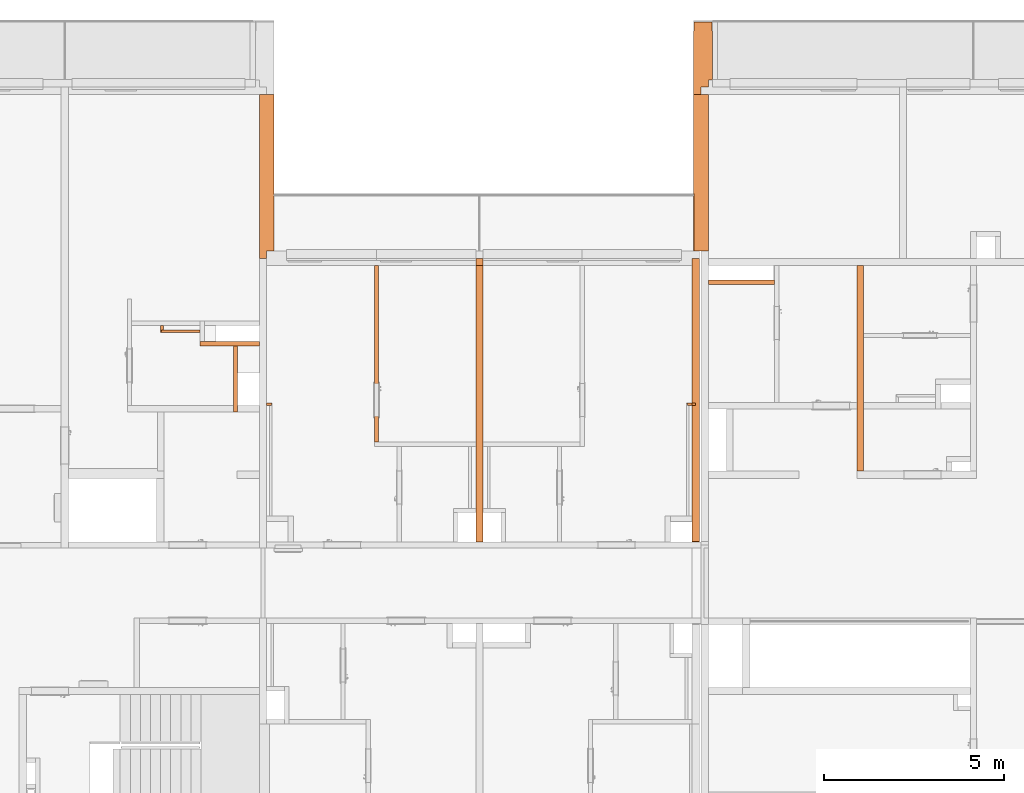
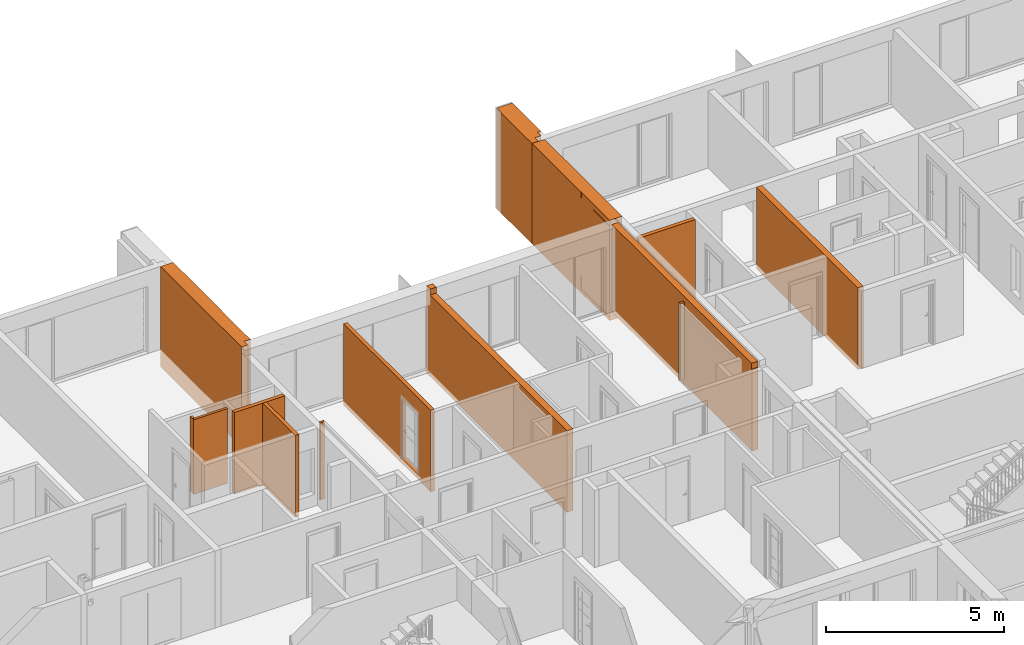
# One storey, part 63 of 67: 14 proxies, 2 openings.
"""IFC2X3 building model written with IfcOpenShell, lengths in millimetres."""

from ifc_helpers import new_model, entity, si_unit, converted_unit, derived_unit, money_unit, direction, frame, origin_with_axes, origin_2d_with_axis, place, context, subcontext, project, spatial, rectangle, extrude, faceted_brep, material, material_list, type_object, element, save


model = new_model("IFC2X3")

# Units and contexts
model_context = context("Model", 3, precision=0.01, world=origin_with_axes(), true_north=direction((0.34421633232, 0.938890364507)))
body_context = subcontext(model_context, "Body", "Model", "MODEL_VIEW")
ifc_project = project(units=[si_unit("LENGTHUNIT", "METRE", prefix="MILLI"), si_unit("AREAUNIT", "SQUARE_METRE"), si_unit("VOLUMEUNIT", "CUBIC_METRE"), converted_unit("PLANEANGLEUNIT", "DEGREE", entity("IfcPlaneAngleMeasure", 0.0174532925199), si_unit("PLANEANGLEUNIT", "RADIAN"), dimensions=[0, 0, 0, 0, 0, 0, 0]), si_unit("SOLIDANGLEUNIT", "STERADIAN"), money_unit("USD"), converted_unit("TIMEUNIT", "Year", entity("IfcTimeMeasure", 31556926.0), si_unit("TIMEUNIT", "SECOND"), dimensions=[0, 0, 1, 0, 0, 0, 0]), si_unit("MASSUNIT", "GRAM", prefix="KILO"), si_unit("THERMODYNAMICTEMPERATUREUNIT", "DEGREE_CELSIUS"), si_unit("LUMINOUSINTENSITYUNIT", "LUMEN"), si_unit("ENERGYUNIT", "JOULE", prefix="MEGA"), derived_unit("THERMALCONDUCTANCEUNIT", [(si_unit("POWERUNIT", "WATT"), 1), (si_unit("LENGTHUNIT", "METRE"), -1), (si_unit("THERMODYNAMICTEMPERATUREUNIT", "KELVIN"), -1)]), derived_unit("SPECIFICHEATCAPACITYUNIT", [(si_unit("ENERGYUNIT", "JOULE"), 1), (si_unit("MASSUNIT", "GRAM", prefix="KILO"), -1), (si_unit("THERMODYNAMICTEMPERATUREUNIT", "KELVIN"), -1)]), derived_unit("MASSDENSITYUNIT", [(si_unit("MASSUNIT", "GRAM", prefix="KILO"), 1), (si_unit("VOLUMEUNIT", "CUBIC_METRE"), -1)])], contexts=[model_context])

# Site, building, storey
site_placement = place(None, origin_with_axes())
site = spatial("IfcSite", under=ifc_project, at=site_placement, Name="USTRONIE MORSKIE", CompositionType="ELEMENT")
building_placement = place(site_placement, origin_with_axes())
building = spatial("IfcBuilding", under=site, at=building_placement, Name="Budynek", CompositionType="ELEMENT")
storey_placement = place(building_placement, frame((0.0, 0.0, 4000.0), z_axis=(0.0, 0.0, 1.0), x_axis=(1.0, 0.0, 0.0)))
storey = spatial("IfcBuildingStorey", under=building, at=storey_placement, Name="PIĘTRO 1", CompositionType="ELEMENT", Elevation=4000.0)

# Proxy
ifc_material_1 = material(Name="Bloczki silikatowe")
building_element_proxy_type_1 = type_object("IfcBuildingElementProxyType", Name="Bloczki silikatowe 120", PredefinedType="NOTDEFINED")
proxy_1_placement = place(storey_placement, frame((410567.940089, 744141.199036, -160.0), z_axis=(0.0, 0.0, 1.0), x_axis=(-1.0, 0.0, 0.0)))
element("IfcBuildingElementProxy", 1, at=proxy_1_placement, inside=storey, type_object=building_element_proxy_type_1, material=ifc_material_1, Name="SW-04", context=body_context, shape_type="Brep", body=[
    faceted_brep([(1900.02781556, -59.9999999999, 2800.0), (1900.02911245, 59.9999999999, 2800.0), (60.0, 59.9999999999, 2800.0), (60.0, -59.9999999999, 2800.0), (1900.02781556, -59.9999999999, 0.0), (1900.02911245, 59.9999999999, 0.0), (60.0, 59.9999999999, 0.0), (60.0, -59.9999999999, 0.0)], [[[0, 1, 2, 3]], [[1, 0, 4, 5]], [[1, 5, 6, 2]], [[7, 3, 2, 6]], [[4, 0, 3, 7]], [[5, 4, 7, 6]]]),
])

# Proxy, opening
proxy_2_placement = place(storey_placement, frame((399467.913786, 739651.199937, -160.0), z_axis=(0.0, 0.0, 1.0), x_axis=(0.0, 1.0, 0.0)))
proxy_2 = element("IfcBuildingElementProxy", 2, at=proxy_2_placement, inside=storey, type_object=building_element_proxy_type_1, material=ifc_material_1, Name="SW-04", context=body_context, shape_type="Brep", body=[
    faceted_brep([(4949.99916105, 60.0, 0.0), (4949.99916406, -60.0, 0.0), (59.9999999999, -60.0, 0.0), (59.9999999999, 60.0, 0.0), (4949.99916105, 60.0, 2800.0), (4949.99916406, -60.0, 2800.0), (59.9999999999, -60.0, 2800.0), (59.9999999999, 60.0, 2800.0)], [[[0, 1, 2, 3]], [[1, 0, 4, 5]], [[1, 5, 6, 2]], [[7, 3, 2, 6]], [[4, 0, 3, 7]], [[5, 4, 7, 6]]]),
])
opening_1_placement = place(proxy_2_placement, frame((1220.0, 0.0, 160.0), z_axis=(0.0, 0.0, 1.0), x_axis=(1.0, 0.0, 0.0)))
element("IfcOpeningElement", 3, at=opening_1_placement, cuts=proxy_2, Name="Dw.3", context=body_context, shape_type="SweptSolid", body=[
    extrude(rectangle(XDim=920.0, YDim=2070.0, at=origin_2d_with_axis()), frame((0.0, -120.0, 1035.0), z_axis=(0.0, 1.0, 0.0), x_axis=(-1.0, 0.0, 0.0)), (0.0, 0.0, 1.0), 360.0),
    extrude(rectangle(XDim=994.0, YDim=2177.0, at=origin_2d_with_axis()), frame((0.0, -60.0, 1088.5), z_axis=(0.0, 1.0, 0.0), x_axis=(-1.0, 0.0, 0.0)), (0.0, 0.0, -1.0), 120.0),
    extrude(rectangle(XDim=994.0, YDim=2177.0, at=origin_2d_with_axis()), frame((0.0, 60.0, 1088.5), z_axis=(0.0, -1.0, 0.0), x_axis=(-1.0, 0.0, 0.0)), (0.0, 0.0, -1.0), 120.0),
])

# Proxies
proxy_3_placement = place(storey_placement, frame((395557.917512, 742431.199937, -160.0), z_axis=(0.0, 0.0, 1.0), x_axis=(0.0, -1.0, 0.0)))
element("IfcBuildingElementProxy", 4, at=proxy_3_placement, inside=storey, type_object=building_element_proxy_type_1, material=ifc_material_1, Name="SW-04", context=body_context, shape_type="Brep", body=[
    faceted_brep([(1890.00090117, -60.0, 2800.0), (1890.00090117, 60.0, 2800.0), (59.9999999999, 60.0, 2800.0), (59.9999999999, -60.0, 2800.0), (1890.00090117, -60.0, 0.0), (1890.00090117, 60.0, 0.0), (59.9999999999, 60.0, 0.0), (59.9999999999, -60.0, 0.0)], [[[0, 1, 2, 3]], [[1, 0, 4, 5]], [[1, 5, 6, 2]], [[7, 3, 2, 6]], [[4, 0, 3, 7]], [[5, 4, 7, 6]]]),
])
proxy_4_placement = place(storey_placement, frame((396317.920919, 742431.199937, -160.0), z_axis=(0.0, 0.0, 1.0), x_axis=(-1.0, 0.0, 0.0)))
element("IfcBuildingElementProxy", 5, at=proxy_4_placement, inside=storey, type_object=building_element_proxy_type_1, material=ifc_material_1, Name="SW-04", context=body_context, shape_type="Brep", body=[
    faceted_brep([(1740.0, -59.9999999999, 2800.0), (1740.0, 59.9999999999, 2800.0), (100.00285023, 59.9999999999, 2800.0), (100.002703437, -59.9999999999, 2800.0), (1740.0, -59.9999999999, 0.0), (1740.0, 59.9999999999, 0.0), (100.00285023, 59.9999999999, 0.0), (100.002703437, -59.9999999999, 0.0)], [[[0, 1, 2, 3]], [[1, 0, 4, 5]], [[1, 5, 6, 2]], [[7, 3, 2, 6]], [[4, 0, 3, 7]], [[5, 4, 7, 6]]]),
])
ifc_material_2 = material(Name="Beton konstrukcyjny B25")
ifc_material_3 = material(Name="Wełna ELEW")
ifc_material_4 = material(Name="Tynk zewnętrzny")
ifc_material_list_1 = material_list([ifc_material_2, ifc_material_3, ifc_material_4])
building_element_proxy_type_2 = type_object("IfcBuildingElementProxyType", Name="20+20 410", PredefinedType="NOTDEFINED")
proxy_5_placement = place(storey_placement, frame((396317.920919, 744701.199021, -600.0), z_axis=(0.0, 0.0, 1.0), x_axis=(0.0, 1.0, 0.0)))
element("IfcBuildingElementProxy", 6, at=proxy_5_placement, inside=storey, type_object=building_element_proxy_type_2, material=ifc_material_list_1, Name="SZ-01", context=body_context, shape_type="Brep", body=[
    faceted_brep([(4650.00001536, 100.0, 3440.0), (100.000301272, 100.0, 3440.0), (100.000301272, -100.0, 3440.0), (4650.00001536, -100.0, 3440.0), (100.000301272, 100.0, 440.0), (100.000301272, 100.0, 3240.0), (4650.00001536, 100.0, -2.99036351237e-08), (100.000301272, 100.0, 0.0), (100.000301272, -100.000122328, 3240.0), (100.000301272, -100.000122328, 440.0), (100.000301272, -100.0, 0.0), (4650.00001536, -100.0, -1.81765713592e-08)], [[[0, 1, 2, 3]], [[4, 5, 1, 0, 6, 7]], [[5, 8, 2, 1]], [[3, 2, 8, 9, 10, 11]], [[6, 0, 3, 11]], [[9, 8, 5, 4]], [[11, 10, 7, 6]], [[10, 9, 4, 7]]]),
    faceted_brep([(4650.00001536, -100.0, 3440.0), (300.000301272, -100.0, 3440.0), (300.000301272, -300.0, 3440.0), (4650.00001536, -300.0, 3440.0), (4650.00001536, -100.0, -1.039014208e-06), (300.000301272, -100.0, 0.0), (300.000301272, -300.0, 0.0), (4650.00001536, -300.0, -1.039014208e-06)], [[[0, 1, 2, 3]], [[1, 0, 4, 5]], [[6, 2, 1, 5]], [[3, 2, 6, 7]], [[4, 0, 3, 7]], [[7, 6, 5, 4]]]),
    faceted_brep([(1899.99511443, -300.000278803, 3440.0), (1899.99511443, -310.0, 3440.0), (4650.00001536, -310.0, 3440.0), (4650.00001536, -300.0, 3440.0), (1899.99511443, -310.0, 3240.0), (1899.99511443, -300.000278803, 3240.0), (310.000301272, -310.0, 3240.0), (310.000301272, -310.0, 570.0), (1899.99511443, -310.0, 570.0), (1899.99511443, -310.0, 130.0), (310.000301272, -310.0, 130.0), (310.000301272, -310.0, 0.0), (4650.00001536, -310.0, -1.039014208e-06), (4650.00001536, -300.0, -1.039014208e-06), (310.000301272, -300.0, 0.0), (310.000301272, -300.0, 130.0), (1899.99511443, -300.0, 130.0), (1899.99511443, -300.0, 570.0), (310.000301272, -300.0, 570.0), (310.000301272, -300.000278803, 3240.0)], [[[0, 1, 2, 3]], [[4, 1, 0, 5]], [[4, 6, 7, 8, 9, 10, 11, 12, 2, 1]], [[13, 3, 2, 12]], [[5, 0, 3, 13, 14, 15, 16, 17, 18, 19]], [[6, 4, 5, 19]], [[6, 19, 18, 7]], [[8, 7, 18, 17]], [[8, 17, 16, 9]], [[10, 9, 16, 15]], [[10, 15, 14, 11]], [[12, 11, 14, 13]]]),
])
ifc_material_list_2 = material_list([ifc_material_4, ifc_material_3, ifc_material_2])
proxy_6_placement = place(storey_placement, frame((408567.920919, 745001.199036, -600.0), z_axis=(0.0, 0.0, 1.0), x_axis=(0.0, 1.0, 0.0)))
element("IfcBuildingElementProxy", 7, at=proxy_6_placement, inside=storey, type_object=building_element_proxy_type_2, material=ifc_material_list_2, Name="SZ-01", context=body_context, shape_type="Brep", body=[
    faceted_brep([(1599.99509907, 310.0, 3440.0), (1599.99509907, 300.0, 3440.0), (4350.0002527, 300.0, 3440.0), (4350.00026112, 310.0, 3440.0), (1599.99509907, 300.0, 3240.0), (1599.99509907, 310.0, 3240.0), (0.000147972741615, 300.0, 3240.0), (0.0, 300.0, 570.0), (1599.99509907, 300.0, 570.0), (1599.99509907, 300.0, 130.0), (0.0, 300.0, 130.0), (0.0, 300.0, 0.0), (4350.0002527, 300.0, -1.039014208e-06), (4350.00026112, 310.0, -1.039014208e-06), (0.0, 310.0, 0.0), (0.0, 310.0, 130.0), (1599.99509907, 310.0, 130.0), (1599.99509907, 310.0, 570.0), (0.0, 310.0, 570.0), (0.000159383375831, 310.0, 3240.0)], [[[0, 1, 2, 3]], [[4, 1, 0, 5]], [[4, 6, 7, 8, 9, 10, 11, 12, 2, 1]], [[13, 3, 2, 12]], [[5, 0, 3, 13, 14, 15, 16, 17, 18, 19]], [[6, 4, 5, 19]], [[6, 19, 18, 7]], [[8, 7, 18, 17]], [[8, 17, 16, 9]], [[10, 9, 16, 15]], [[10, 15, 14, 11]], [[14, 13, 12, 11]]]),
    faceted_brep([(0.0, 100.0, 0.0), (4350.00008423, 100.0, -1.039014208e-06), (4350.00008423, 100.0, 3440.0), (0.0, 100.0, 3440.0), (0.0, 300.0, 0.0), (4350.0002527, 300.0, -1.039014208e-06), (4350.0002527, 300.0, 3440.0), (0.0, 300.0, 3440.0)], [[[0, 1, 2, 3]], [[4, 5, 1, 0]], [[5, 6, 2, 1]], [[3, 2, 6, 7]], [[7, 4, 0, 3]], [[7, 6, 5, 4]]]),
    faceted_brep([(4349.99991577, -100.0, -2.99036351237e-08), (4349.99991577, -100.0, 3440.0), (0.0, -100.0, 3440.0), (0.0, -100.0, 0.0), (4350.00008423, 100.0, 3440.0), (4350.00008423, 100.0, -1.81765713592e-08), (0.0, 100.0, 3440.0), (0.0, 100.0, 0.0)], [[[0, 1, 2, 3]], [[4, 1, 0, 5]], [[1, 4, 6, 2]], [[7, 3, 2, 6]], [[5, 0, 3, 7]], [[4, 5, 7, 6]]]),
])
building_element_proxy_type_3 = type_object("IfcBuildingElementProxyType", Name="Bloczki silikatowe 180", PredefinedType="NOTDEFINED")
proxy_7_placement = place(storey_placement, frame((412877.920963, 744701.199036, -160.0), z_axis=(0.0, 0.0, 1.0), x_axis=(0.0, -1.0, 0.0)))
element("IfcBuildingElementProxy", 8, at=proxy_7_placement, inside=storey, type_object=building_element_proxy_type_3, material=ifc_material_1, Name="SW-02", context=body_context, shape_type="Brep", body=[
    faceted_brep([(100.0, 90.0, 0.0), (5800.0, 90.0, 0.0), (5800.0, -90.0, 0.0), (100.0, -90.0, 0.0), (100.0, 90.0, 2800.0), (5800.0, 90.0, 2800.0), (5800.0, -90.0, 2800.0), (100.0, -90.0, 2800.0)], [[[0, 1, 2, 3]], [[4, 5, 1, 0]], [[6, 2, 1, 5]], [[3, 2, 6, 7]], [[7, 4, 0, 3]], [[7, 6, 5, 4]]]),
])
ifc_material_5 = material(Name="Płyta GK")
ifc_material_6 = material(Name="-Pustka powietrzna")
ifc_material_list_3 = material_list([ifc_material_5, ifc_material_5, ifc_material_6])
building_element_proxy_type_4 = type_object("IfcBuildingElementProxyType", Name="330-SD GK 2-warstwy 75", PredefinedType="NOTDEFINED")
proxy_8_placement = place(storey_placement, frame((393502.920919, 742771.199021, -160.0), z_axis=(0.0, 0.0, 1.0), x_axis=(0.0, 1.0, 0.0)))
element("IfcBuildingElementProxy", 9, at=proxy_8_placement, inside=storey, type_object=building_element_proxy_type_4, material=ifc_material_list_3, Name="Ściana-009", context=body_context, shape_type="Brep", body=[
    faceted_brep([(-12.5, 12.5, 145.0), (170.0, 12.5, 145.0), (170.0, 12.5, 2710.0), (-12.5, 12.5, 2710.0), (170.0, 25.0, 145.0), (-12.5, 25.0, 145.0), (170.0, 25.0, 2710.0), (-12.5, 25.0, 2710.0)], [[[0, 1, 2, 3]], [[4, 1, 0, 5]], [[1, 4, 6, 2]], [[2, 6, 7, 3]], [[5, 0, 3, 7]], [[4, 5, 7, 6]]]),
    faceted_brep([(0.0, 0.0, 145.0), (170.0, 0.0, 145.0), (170.0, 0.0, 2710.0), (0.0, 0.0, 2710.0), (170.0, 12.5, 145.0), (0.0, 12.5, 145.0), (170.0, 12.5, 2710.0), (0.0, 12.5, 2710.0)], [[[0, 1, 2, 3]], [[4, 1, 0, 5]], [[1, 4, 6, 2]], [[2, 6, 7, 3]], [[5, 0, 3, 7]], [[4, 5, 7, 6]]]),
    faceted_brep([(50.0, -50.0, 160.0), (170.0, -50.0, 160.0), (170.0, -50.0, 2710.0), (50.0, -50.0, 2710.0), (170.0, 0.0, 160.0), (50.0, 0.0, 160.0), (170.0, 0.0, 2710.0), (50.0, 0.0, 2710.0)], [[[0, 1, 2, 3]], [[4, 1, 0, 5]], [[1, 4, 6, 2]], [[2, 6, 7, 3]], [[5, 0, 3, 7]], [[4, 5, 7, 6]]]),
])
proxy_9_placement = place(storey_placement, frame((396317.920919, 740771.202288, -180.0), z_axis=(0.0, 0.0, 1.0), x_axis=(1.0, 0.0, 0.0)))
element("IfcBuildingElementProxy", 10, at=proxy_9_placement, inside=storey, type_object=building_element_proxy_type_4, material=ifc_material_list_3, Name="Ściana-009", context=body_context, shape_type="Brep", body=[
    faceted_brep([(254.977879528, 12.5, 165.0), (254.977879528, 25.0, 165.0), (254.977879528, 25.0, 2820.0), (254.977879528, 12.5, 2820.0), (99.9952231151, 25.0, 165.0), (99.9952078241, 12.5, 165.0), (99.9952231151, 25.0, 2820.0), (99.9952078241, 12.5, 2820.0)], [[[0, 1, 2, 3]], [[4, 1, 0, 5]], [[1, 4, 6, 2]], [[2, 6, 7, 3]], [[5, 0, 3, 7]], [[4, 5, 7, 6]]]),
    faceted_brep([(242.477879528, 0.0, 165.0), (242.477879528, 12.5, 165.0), (242.477879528, 12.5, 2820.0), (242.477879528, 0.0, 2820.0), (99.9952078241, 12.5, 165.0), (99.9951925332, 0.0, 165.0), (99.9952078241, 12.5, 2820.0), (99.9951925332, 0.0, 2820.0)], [[[0, 1, 2, 3]], [[4, 1, 0, 5]], [[1, 4, 6, 2]], [[2, 6, 7, 3]], [[5, 0, 3, 7]], [[4, 5, 7, 6]]]),
    faceted_brep([(229.977879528, -50.0, 180.0), (229.977879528, 0.0, 180.0), (229.977879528, 0.0, 2820.0), (229.977879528, -50.0, 2820.0), (99.9951925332, 0.0, 180.0), (99.9951313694, -50.0, 180.0), (99.9951925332, 0.0, 2820.0), (99.9951313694, -50.0, 2820.0)], [[[0, 1, 2, 3]], [[4, 1, 0, 5]], [[1, 4, 6, 2]], [[2, 6, 7, 3]], [[5, 0, 3, 7]], [[4, 5, 7, 6]]]),
])
ifc_material_list_4 = material_list([ifc_material_6, ifc_material_5, ifc_material_5])
proxy_10_placement = place(storey_placement, frame((408317.920919, 740771.202288, -180.0), z_axis=(0.0, 0.0, 1.0), x_axis=(-1.0, 0.0, 0.0)))
element("IfcBuildingElementProxy", 11, at=proxy_10_placement, inside=storey, type_object=building_element_proxy_type_4, material=ifc_material_list_4, Name="Ściana-009", context=body_context, shape_type="Brep", body=[
    faceted_brep([(100.003134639, 0.0, 0.0), (100.0, 0.0, 20.0), (0.0, 0.0, 20.0), (0.0, 0.0, 0.0), (100.003086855, 50.0, 0.0), (100.0, 50.0, 20.0), (0.0, 50.0, 20.0), (0.0, 50.0, 0.0)], [[[0, 1, 2, 3]], [[1, 0, 4, 5]], [[5, 6, 2, 1]], [[3, 2, 6, 7]], [[4, 0, 3, 7]], [[5, 4, 7, 6]]]),
    faceted_brep([(100.0, 50.0, 180.0), (100.0, 0.0, 180.0), (100.0, 0.0, 2820.0), (100.0, 50.0, 2820.0), (229.977879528, 0.0, 180.0), (229.977879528, 50.0, 180.0), (229.977879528, 0.0, 2820.0), (229.977879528, 50.0, 2820.0)], [[[0, 1, 2, 3]], [[4, 1, 0, 5]], [[1, 4, 6, 2]], [[7, 3, 2, 6]], [[5, 0, 3, 7]], [[4, 5, 7, 6]]]),
    faceted_brep([(100.003146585, -12.5, 0.0), (100.0, -12.5, 20.0), (0.0, -12.5, 20.0), (0.0, -12.5, 0.0), (100.003134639, 0.0, 0.0), (100.0, 0.0, 20.0), (0.0, 0.0, 20.0), (0.0, 0.0, 0.0)], [[[0, 1, 2, 3]], [[1, 0, 4, 5]], [[5, 6, 2, 1]], [[3, 2, 6, 7]], [[4, 0, 3, 7]], [[5, 4, 7, 6]]]),
    faceted_brep([(100.0, 0.0, 165.0), (100.0, -12.5, 165.0), (100.0, -12.5, 2820.0), (100.0, 0.0, 2820.0), (242.477879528, -12.5, 165.0), (242.477879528, 0.0, 165.0), (242.477879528, -12.5, 2820.0), (242.477879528, 0.0, 2820.0)], [[[0, 1, 2, 3]], [[4, 1, 0, 5]], [[1, 4, 6, 2]], [[7, 3, 2, 6]], [[5, 0, 3, 7]], [[4, 5, 7, 6]]]),
    faceted_brep([(100.003158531, -25.0, 0.0), (100.0, -25.0, 20.0), (0.0, -25.0, 20.0), (0.0, -25.0, 0.0), (100.003146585, -12.5, 0.0), (100.0, -12.5, 20.0), (0.0, -12.5, 20.0), (0.0, -12.5, 0.0)], [[[0, 1, 2, 3]], [[1, 0, 4, 5]], [[5, 6, 2, 1]], [[3, 2, 6, 7]], [[4, 0, 3, 7]], [[5, 4, 7, 6]]]),
    faceted_brep([(100.0, -12.5, 165.0), (100.0, -25.0, 165.0), (100.0, -25.0, 2820.0), (100.0, -12.5, 2820.0), (254.977879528, -25.0, 165.0), (254.977879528, -12.5, 165.0), (254.977879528, -25.0, 2820.0), (254.977879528, -12.5, 2820.0)], [[[0, 1, 2, 3]], [[4, 1, 0, 5]], [[1, 4, 6, 2]], [[7, 3, 2, 6]], [[5, 0, 3, 7]], [[4, 5, 7, 6]]]),
])
proxy_11_placement = place(storey_placement, frame((393502.920919, 742771.199021, -160.0), z_axis=(0.0, 0.0, 1.0), x_axis=(1.0, 0.0, 0.0)))
element("IfcBuildingElementProxy", 12, at=proxy_11_placement, inside=storey, type_object=building_element_proxy_type_4, material=ifc_material_list_4, Name="Ściana-009", context=body_context, shape_type="Brep", body=[
    faceted_brep([(1075.0, 0.0, 160.0), (1075.0, 50.0, 160.0), (1075.0, 50.0, 2710.0), (1075.0, 0.0, 2710.0), (0.0, 50.0, 160.0), (0.0, 0.0, 160.0), (0.0, 50.0, 2710.0), (0.0, 0.0, 2710.0)], [[[0, 1, 2, 3]], [[4, 1, 0, 5]], [[1, 4, 6, 2]], [[3, 2, 6, 7]], [[5, 0, 3, 7]], [[4, 5, 7, 6]]]),
    faceted_brep([(1075.0, -12.5, 145.0), (1075.0, 0.0, 145.0), (1075.0, 0.0, 2710.0), (1075.0, -12.5, 2710.0), (-12.5, 0.0, 145.0), (-12.5, -12.5, 145.0), (-12.5, 0.0, 2710.0), (-12.5, -12.5, 2710.0)], [[[0, 1, 2, 3]], [[4, 1, 0, 5]], [[1, 4, 6, 2]], [[3, 2, 6, 7]], [[5, 0, 3, 7]], [[4, 5, 7, 6]]]),
    faceted_brep([(1075.0, -25.0, 145.0), (1075.0, -12.5, 145.0), (1075.0, -12.5, 2710.0), (1075.0, -25.0, 2710.0), (-25.0, -12.5, 145.0), (-25.0, -25.0, 145.0), (-25.0, -12.5, 2710.0), (-25.0, -25.0, 2710.0)], [[[0, 1, 2, 3]], [[4, 1, 0, 5]], [[1, 4, 6, 2]], [[3, 2, 6, 7]], [[5, 0, 3, 7]], [[4, 5, 7, 6]]]),
])
building_element_proxy_type_5 = type_object("IfcBuildingElementProxyType", Name="Beton konstrukcyjny B25 200", PredefinedType="NOTDEFINED")
proxy_12_placement = place(storey_placement, frame((408317.920919, 744701.199036, -160.0), z_axis=(0.0, 0.0, 1.0), x_axis=(0.0, -1.0, 0.0)))
element("IfcBuildingElementProxy", 13, at=proxy_12_placement, inside=storey, type_object=building_element_proxy_type_5, material=ifc_material_2, Name="SW-01", context=body_context, shape_type="Brep", body=[
    faceted_brep([(-100.000283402, -100.0, 3000.0), (7750.0, -100.0, 3000.0), (7750.0, 100.0, 3000.0), (-100.000288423, 100.0, 3000.0), (7770.0, -100.0, 2800.0), (7750.0, -100.0, 2800.0), (-100.000283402, -100.0, 0.0), (7770.0, -100.0, 0.0), (7750.0, 100.0, 2800.0), (7770.0, 100.0, 2800.0), (7770.0, 100.0, 0.0), (-100.000288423, 100.0, 0.0)], [[[0, 1, 2, 3]], [[4, 5, 1, 0, 6, 7]], [[5, 8, 2, 1]], [[2, 8, 9, 10, 11, 3]], [[11, 6, 0, 3]], [[4, 9, 8, 5]], [[6, 11, 10, 7]], [[10, 9, 4, 7]]]),
])
proxy_13_placement = place(storey_placement, frame((402317.920919, 736851.199036, -160.0), z_axis=(0.0, 0.0, 1.0), x_axis=(0.0, 1.0, 0.0)))
element("IfcBuildingElementProxy", 14, at=proxy_13_placement, inside=storey, type_object=building_element_proxy_type_5, material=ifc_material_2, Name="SW-01", context=body_context, shape_type="Brep", body=[
    faceted_brep([(7950.00013277, 100.0, 3000.0), (7750.01453313, 100.0, 3000.0), (7750.01408249, -100.0, 3000.0), (7950.00013779, -100.0, 3000.0), (80.0, 100.0, 2800.0), (7750.01453313, 100.0, 2800.0), (7950.00013277, 100.0, 0.0), (80.0, 100.0, 0.0), (7750.01408249, -100.0, 2800.0), (80.0, -100.0, 2800.0), (80.0, -100.0, 0.0), (7950.00013779, -100.0, 0.0)], [[[0, 1, 2, 3]], [[4, 5, 1, 0, 6, 7]], [[5, 8, 2, 1]], [[2, 8, 9, 10, 11, 3]], [[6, 0, 3, 11]], [[4, 9, 8, 5]], [[6, 11, 10, 7]], [[10, 9, 4, 7]]]),
])

# Proxy, opening
ifc_material_list_5 = material_list([ifc_material_4, ifc_material_3, ifc_material_2, ifc_material_3, ifc_material_4])
building_element_proxy_type_6 = type_object("IfcBuildingElementProxyType", Name="BALKON bok 01 520", PredefinedType="NOTDEFINED")
proxy_14_placement = place(storey_placement, frame((408567.920919, 749451.199036, -600.000001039), z_axis=(0.0, 0.0, 1.0), x_axis=(0.0, 1.0, 0.0)))
proxy_14 = element("IfcBuildingElementProxy", 15, at=proxy_14_placement, inside=storey, type_object=building_element_proxy_type_6, material=ifc_material_list_5, Name="Œciana-006", context=body_context, shape_type="Brep", body=[
    faceted_brep([(-99.9997473, 300.0, 3440.00000104), (1949.99981809, 300.0, 3440.00000104), (1949.99981809, 310.0, 3440.00000104), (-99.9997388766, 310.0, 3440.00000104), (-99.9997473, 300.0, 0.0), (1949.99981809, 300.0, 0.0), (1949.99981809, 310.0, 0.0), (-99.9997388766, 310.0, 0.0)], [[[0, 1, 2, 3]], [[4, 5, 1, 0]], [[2, 1, 5, 6]], [[3, 2, 6, 7]], [[4, 0, 3, 7]], [[7, 6, 5, 4]]]),
    faceted_brep([(-99.9999157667, 100.0, 3440.00000104), (1949.99981809, 100.0, 3440.00000104), (1949.99981809, 300.0, 3440.00000104), (-99.9997473, 300.0, 3440.00000104), (-99.9999157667, 100.0, 0.0), (1949.99981809, 100.0, 0.0), (1949.99981809, 300.0, 0.0), (-99.9997473, 300.0, 0.0)], [[[0, 1, 2, 3]], [[4, 5, 1, 0]], [[2, 1, 5, 6]], [[3, 2, 6, 7]], [[4, 0, 3, 7]], [[7, 6, 5, 4]]]),
    faceted_brep([(1949.99981809, -100.0, 3440.00000104), (1949.99981809, 100.0, 3440.00000104), (100.000084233, 100.0, 3440.00000104), (99.9999157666, -100.0, 3440.00000104), (1949.99981809, -100.0, 0.0), (1949.99981809, 100.0, 0.0), (100.000084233, 100.0, 0.0), (99.9999157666, -100.0, 0.0)], [[[0, 1, 2, 3]], [[0, 4, 5, 1]], [[1, 5, 6, 2]], [[3, 2, 6, 7]], [[4, 0, 3, 7]], [[5, 4, 7, 6]]]),
    faceted_brep([(1949.99981809, -200.0, 3440.00000104), (1949.99981809, -100.0, 3440.00000104), (299.999915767, -100.0, 3440.00000104), (299.999831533, -200.0, 3440.00000104), (1949.99981809, -200.0, 0.0), (1949.99981809, -100.0, 0.0), (299.999915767, -100.0, 0.0), (299.999831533, -200.0, 0.0)], [[[0, 1, 2, 3]], [[0, 4, 5, 1]], [[1, 5, 6, 2]], [[3, 2, 6, 7]], [[4, 0, 3, 7]], [[5, 4, 7, 6]]]),
    faceted_brep([(1899.84617112, -209.852530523, 3440.00002375), (1909.87684774, -209.852438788, 3440.00000104), (1909.87684909, -210.0, 3440.00001921), (1949.99981809, -210.0, 3440.00000104), (1949.99981809, -200.0, 3440.00000104), (309.999831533, -200.0, 3440.00000104), (309.999823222, -209.867070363, 3440.00002375), (309.999823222, -209.867070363, 3229.99999287), (1909.87684774, -209.852438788, 3229.99999287), (1909.87684909, -210.0, 3229.99999287), (309.99982311, -210.0, 3229.99999287), (309.99982311, -210.0, 0.0), (1949.99981809, -210.0, 0.0), (1949.99981809, -200.0, 0.0), (309.999831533, -200.0, 0.0)], [[[0, 1, 2, 3, 4, 5, 6]], [[0, 6, 7, 8, 1]], [[9, 2, 1, 8]], [[9, 10, 11, 12, 3, 2]], [[4, 3, 12, 13]], [[5, 4, 13, 14]], [[7, 6, 5, 14, 11, 10]], [[10, 9, 8, 7]], [[14, 13, 12, 11]]]),
])
opening_2_placement = place(proxy_14_placement, frame((1949.99981809, 0.0, 0.0), z_axis=(0.0, 0.0, 1.0), x_axis=(1.0, 0.0, 0.0)))
element("IfcOpeningElement", 16, at=opening_2_placement, cuts=proxy_14, Name="ZS1", context=body_context, shape_type="SweptSolid", body=[
    extrude(rectangle(XDim=9.99999999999, YDim=50.0000000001, at=origin_2d_with_axis()), frame((-25.0000000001, 305.0, 0.0), z_axis=(0.0, 0.0, 1.0), x_axis=(0.0, -1.0, 0.0)), (0.0, 0.0, 1.0), 3440.00000104),
    extrude(rectangle(XDim=9.99999999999, YDim=250.0, at=origin_2d_with_axis()), frame((-175.0, 305.0, 0.0), z_axis=(0.0, 0.0, 1.0), x_axis=(0.0, -1.0, 0.0)), (0.0, 0.0, 1.0), 3440.00000104),
    extrude(rectangle(XDim=9.99999999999, YDim=50.0, at=origin_2d_with_axis()), frame((-25.0, -205.0, 0.0), z_axis=(0.0, 0.0, 1.0), x_axis=(0.0, -1.0, 0.0)), (0.0, 0.0, 1.0), 3440.00000104),
    extrude(rectangle(XDim=9.99999999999, YDim=250.0, at=origin_2d_with_axis()), frame((-175.0, -205.0, 0.0), z_axis=(0.0, 0.0, 1.0), x_axis=(0.0, -1.0, 0.0)), (0.0, 0.0, 1.0), 3440.00000104),
    extrude(rectangle(XDim=500.0, YDim=50.0000000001, at=origin_2d_with_axis()), frame((-25.0000000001, 50.0, 0.0), z_axis=(0.0, 0.0, 1.0), x_axis=(0.0, -1.0, 0.0)), (0.0, 0.0, 1.0), 3440.00000104),
])

save(model, "model.ifc")
